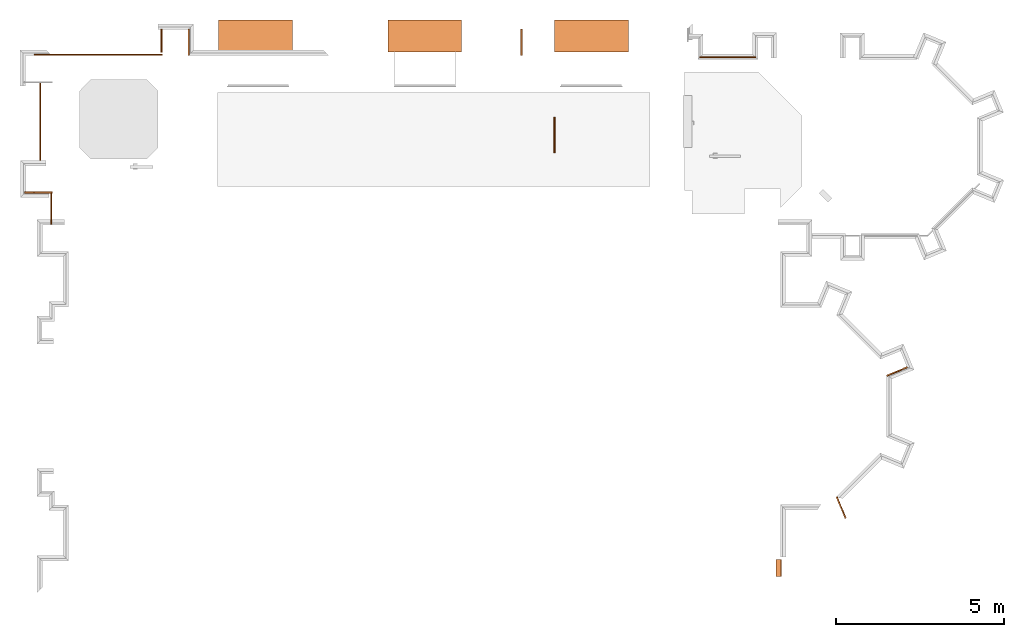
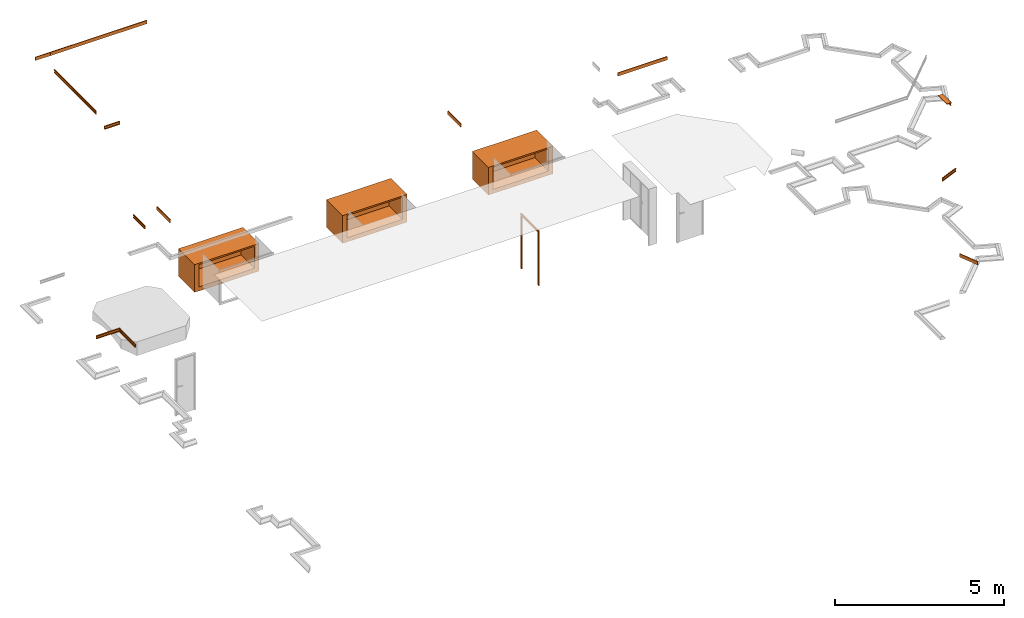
# One storey, part 3 of 9: 17 proxies.
"""IFC2X3 building model written with IfcOpenShell, lengths in metres."""

from ifc_helpers import new_model, entity, si_unit, converted_unit, derived_unit, direction, frame, frame_2d, origin, origin_2d_with_axis, place, context, subcontext, project, spatial, polyline, circle_curve, parameter, trimmed, segment, composite_curve, rectangle, outline, extrude, source, transform, mapped, material, material_list, type_object, type_shapes, element, save


model = new_model("IFC2X3")

# Units and contexts
model_context = context("Model", 3, precision=1e-05, world=origin(), true_north=direction((6.12303176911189e-17, 1.0)))
plan_context = context("Plan", 3, precision=1e-05, world=origin(), true_north=direction((6.12303176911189e-17, 1.0)))
body_context = subcontext(model_context, "Body", "Model", "MODEL_VIEW")
ifc_project = project(units=[si_unit("LENGTHUNIT", "METRE"), si_unit("AREAUNIT", "SQUARE_METRE"), si_unit("VOLUMEUNIT", "CUBIC_METRE"), converted_unit("PLANEANGLEUNIT", "DEGREE", entity("IfcRatioMeasure", 0.0174532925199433), si_unit("PLANEANGLEUNIT", "RADIAN"), dimensions=[0, 0, 0, 0, 0, 0, 0]), si_unit("MASSUNIT", "GRAM", prefix="KILO"), derived_unit("MASSDENSITYUNIT", [(si_unit("MASSUNIT", "GRAM", prefix="KILO"), 1), (si_unit("LENGTHUNIT", "METRE"), -3)]), derived_unit("MOMENTOFINERTIAUNIT", [(si_unit("LENGTHUNIT", "METRE"), 4)]), si_unit("TIMEUNIT", "SECOND"), si_unit("FREQUENCYUNIT", "HERTZ"), si_unit("THERMODYNAMICTEMPERATUREUNIT", "DEGREE_CELSIUS"), derived_unit("THERMALTRANSMITTANCEUNIT", [(si_unit("MASSUNIT", "GRAM", prefix="KILO"), 1), (si_unit("THERMODYNAMICTEMPERATUREUNIT", "KELVIN"), -1), (si_unit("TIMEUNIT", "SECOND"), -3)]), derived_unit("VOLUMETRICFLOWRATEUNIT", [(si_unit("LENGTHUNIT", "METRE"), 3), (si_unit("TIMEUNIT", "SECOND"), -1)]), derived_unit("MASSFLOWRATEUNIT", [(si_unit("MASSUNIT", "GRAM", prefix="KILO"), 1), (si_unit("TIMEUNIT", "SECOND"), -1)]), derived_unit("ROTATIONALFREQUENCYUNIT", [(si_unit("TIMEUNIT", "SECOND"), -1)]), si_unit("ELECTRICCURRENTUNIT", "AMPERE"), si_unit("ELECTRICVOLTAGEUNIT", "VOLT"), si_unit("POWERUNIT", "WATT"), si_unit("FORCEUNIT", "NEWTON", prefix="KILO"), si_unit("ILLUMINANCEUNIT", "LUX"), si_unit("LUMINOUSFLUXUNIT", "LUMEN"), si_unit("LUMINOUSINTENSITYUNIT", "CANDELA"), derived_unit("USERDEFINED", [(si_unit("MASSUNIT", "GRAM", prefix="KILO"), -1), (si_unit("LENGTHUNIT", "METRE"), -2), (si_unit("TIMEUNIT", "SECOND"), 3), (si_unit("LUMINOUSFLUXUNIT", "LUMEN"), 1)]), derived_unit("SOUNDPOWERUNIT", [(si_unit("MASSUNIT", "GRAM", prefix="KILO"), 1), (si_unit("LENGTHUNIT", "METRE"), 2), (si_unit("TIMEUNIT", "SECOND"), -3)]), derived_unit("SOUNDPRESSUREUNIT", [(si_unit("MASSUNIT", "GRAM", prefix="KILO"), 1), (si_unit("LENGTHUNIT", "METRE"), -1), (si_unit("TIMEUNIT", "SECOND"), -2)]), derived_unit("LINEARVELOCITYUNIT", [(si_unit("LENGTHUNIT", "METRE"), 1), (si_unit("TIMEUNIT", "SECOND"), -1)]), si_unit("PRESSUREUNIT", "PASCAL"), derived_unit("USERDEFINED", [(si_unit("LENGTHUNIT", "METRE"), -2), (si_unit("MASSUNIT", "GRAM", prefix="KILO"), 1), (si_unit("TIMEUNIT", "SECOND"), -2)]), derived_unit("LINEARFORCEUNIT", [(si_unit("MASSUNIT", "GRAM", prefix="KILO"), 1), (si_unit("LENGTHUNIT", "METRE"), 1), (si_unit("TIMEUNIT", "SECOND"), -2), (si_unit("LENGTHUNIT", "METRE"), -1)]), derived_unit("PLANARFORCEUNIT", [(si_unit("MASSUNIT", "GRAM", prefix="KILO"), 1), (si_unit("LENGTHUNIT", "METRE"), 1), (si_unit("TIMEUNIT", "SECOND"), -2), (si_unit("LENGTHUNIT", "METRE"), -2)])], contexts=[model_context, plan_context])

# Site, building, storey
site_placement = place(None, frame((-11.0823275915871, 23.8300534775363, 0.0)))
site = spatial("IfcSite", under=ifc_project, at=site_placement, Name="Default", CompositionType="ELEMENT")
building_placement = place(site_placement, origin())
building = spatial("IfcBuilding", under=site, at=building_placement, Name="Englische Kirche", CompositionType="ELEMENT")
storey_placement = place(building_placement, frame((0.0, 0.0, -3.07499999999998)))
storey = spatial("IfcBuildingStorey", under=building, at=storey_placement, Name="Ebene -1 Basement Phase 6", CompositionType="ELEMENT", Elevation=-3.07499999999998)

# Proxies
building_element_proxy_type_1 = type_object("IfcBuildingElementProxyType", Name="Profilierte Wand:moulding1-Dado", PredefinedType="NOTDEFINED")
proxy_1_placement = place(storey_placement, origin())
element("IfcBuildingElementProxy", 1, at=proxy_1_placement, inside=storey, type_object=building_element_proxy_type_1, Name="Profilierte Wand:moulding1-Dado", ObjectType="Profilierte Wand:moulding1-Dado", context=body_context, shape_type="SweptSolid", body=[
    extrude(outline(composite_curve([segment(polyline([(-0.0162949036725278, -0.0657101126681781), (0.00370509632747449, -0.0657101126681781)]), True, "CONTINUOUS"), segment(trimmed(circle_curve(frame_2d((0.00370509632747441, -0.0507101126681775), x_axis=(1.0, 0.0)), 0.015), [parameter(270.0)], [parameter(93.5763343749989)], True, "PARAMETER"), True, "CONTINUOUS"), segment(polyline([(0.00276942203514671, -0.0357393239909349), (-0.00129490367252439, 0.0292898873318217)]), True, "CONTINUOUS"), segment(polyline([(-0.00129490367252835, 0.0292898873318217), (0.0137050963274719, 0.0292898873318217)]), True, "CONTINUOUS"), segment(polyline([(0.0137050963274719, 0.0292898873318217), (0.0137050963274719, 0.0542898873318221)]), True, "CONTINUOUS"), segment(polyline([(0.0137050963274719, 0.0542898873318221), (-0.0162949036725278, 0.0542898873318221)]), True, "CONTINUOUS"), segment(polyline([(-0.0162949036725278, 0.0542898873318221), (-0.0162949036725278, -0.0657101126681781)]), True, "CONTINUOUS")], self_intersect=False)), frame((22.6795905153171, 1.51514831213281, 4.3792898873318), z_axis=(-0.382683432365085, 0.923879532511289, 0.0), x_axis=(0.923879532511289, 0.382683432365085, 0.0)), (0.0, 0.0, 1.0), 0.679766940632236),
])
building_element_proxy_type_2 = type_object("IfcBuildingElementProxyType", Name="Profilierte Wand:moulding1-Dado", PredefinedType="NOTDEFINED")
proxy_2_placement = place(storey_placement, origin())
element("IfcBuildingElementProxy", 2, at=proxy_2_placement, inside=storey, type_object=building_element_proxy_type_2, Name="Profilierte Wand:moulding1-Dado", ObjectType="Profilierte Wand:moulding1-Dado", context=body_context, shape_type="SweptSolid", body=[
    extrude(outline(composite_curve([segment(polyline([(-0.0162949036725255, -0.0657101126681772), (0.00370509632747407, -0.0657101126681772)]), True, "CONTINUOUS"), segment(trimmed(circle_curve(frame_2d((0.00370509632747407, -0.0507101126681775), x_axis=(1.0, 0.0)), 0.015), [parameter(270.0)], [parameter(93.5763343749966)], True, "PARAMETER"), True, "CONTINUOUS"), segment(polyline([(0.00276942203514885, -0.0357393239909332), (-0.00129490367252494, 0.0292898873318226)]), True, "CONTINUOUS"), segment(polyline([(-0.00129490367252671, 0.0292898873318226), (0.0137050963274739, 0.0292898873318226)]), True, "CONTINUOUS"), segment(polyline([(0.0137050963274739, 0.0292898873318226), (0.0137050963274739, 0.0542898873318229)]), True, "CONTINUOUS"), segment(polyline([(0.0137050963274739, 0.0542898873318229), (-0.0162949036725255, 0.0542898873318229)]), True, "CONTINUOUS"), segment(polyline([(-0.0162949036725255, 0.0542898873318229), (-0.0162949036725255, -0.0657101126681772)]), True, "CONTINUOUS")], self_intersect=False)), frame((-1.79761080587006, 11.2274240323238, 4.3792898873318), z_axis=(1.0, 0.0, 0.0), x_axis=(0.0, -1.0, 0.0)), (0.0, 0.0, 1.0), 0.820746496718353),
])
building_element_proxy_type_3 = type_object("IfcBuildingElementProxyType", Name="Profilierte Wand:moulding1-Dado brick Stage 2", PredefinedType="NOTDEFINED")
proxy_3_placement = place(storey_placement, origin())
element("IfcBuildingElementProxy", 3, at=proxy_3_placement, inside=storey, type_object=building_element_proxy_type_3, Name="Profilierte Wand:moulding1-Dado brick Stage 2", ObjectType="Profilierte Wand:moulding1-Dado brick Stage 2", context=body_context, shape_type="SweptSolid", body=[
    extrude(outline(composite_curve([segment(polyline([(-0.0657101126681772, -0.0162949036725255), (0.0542898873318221, -0.0162949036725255)]), True, "CONTINUOUS"), segment(polyline([(0.0542898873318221, -0.0162949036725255), (0.0542898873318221, 0.0137050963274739)]), True, "CONTINUOUS"), segment(polyline([(0.0542898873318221, 0.0137050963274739), (0.0292898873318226, 0.0137050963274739)]), True, "CONTINUOUS"), segment(polyline([(0.0292898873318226, 0.0137050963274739), (0.0292898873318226, -0.00129490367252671)]), True, "CONTINUOUS"), segment(polyline([(0.0292898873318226, -0.00129490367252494), (-0.035739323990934, 0.00276942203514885)]), True, "CONTINUOUS"), segment(trimmed(circle_curve(frame_2d((-0.0507101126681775, 0.00370509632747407), x_axis=(0.0, 1.0)), 0.015), [parameter(266.423665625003)], [parameter(90.0000000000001)], True, "PARAMETER"), True, "CONTINUOUS"), segment(polyline([(-0.0657101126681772, 0.00370509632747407), (-0.0657101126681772, -0.0162949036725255)]), True, "CONTINUOUS")], self_intersect=False)), frame((18.3254573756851, 15.2610138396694, 4.37928988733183), z_axis=(1.0, 0.0, 0.0), x_axis=(0.0, 0.0, -1.0)), (0.0, 0.0, 1.0), 1.68025000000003),
])
building_element_proxy_type_4 = type_object("IfcBuildingElementProxyType", Name="Profilierte Wand:moulding1-Dado", PredefinedType="NOTDEFINED")
proxy_4_placement = place(storey_placement, origin())
element("IfcBuildingElementProxy", 4, at=proxy_4_placement, inside=storey, type_object=building_element_proxy_type_4, Name="Profilierte Wand:moulding1-Dado", ObjectType="Profilierte Wand:moulding1-Dado", context=body_context, shape_type="SweptSolid", body=[
    extrude(outline(composite_curve([segment(polyline([(-0.0657101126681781, -0.0162949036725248), (0.0542898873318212, -0.0162949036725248)]), True, "CONTINUOUS"), segment(polyline([(0.0542898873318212, -0.0162949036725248), (0.0542898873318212, 0.0137050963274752)]), True, "CONTINUOUS"), segment(polyline([(0.0542898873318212, 0.0137050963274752), (0.0292898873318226, 0.0137050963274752)]), True, "CONTINUOUS"), segment(polyline([(0.0292898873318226, 0.0137050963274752), (0.0292898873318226, -0.00129490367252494)]), True, "CONTINUOUS"), segment(polyline([(0.0292898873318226, -0.00129490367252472), (-0.0357393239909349, 0.00276942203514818)]), True, "CONTINUOUS"), segment(trimmed(circle_curve(frame_2d((-0.0507101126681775, 0.0037050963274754), x_axis=(0.0, 1.0)), 0.015), [parameter(266.423665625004)], [parameter(90.0000000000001)], True, "PARAMETER"), True, "CONTINUOUS"), segment(polyline([(-0.0657101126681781, 0.0037050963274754), (-0.0657101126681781, -0.0162949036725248)]), True, "CONTINUOUS")], self_intersect=False)), frame((-1.33575888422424, 12.0237189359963, 11.8434532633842), z_axis=(0.0, 1.0, 0.0), x_axis=(0.0, 0.0, -1.0)), (0.0, 0.0, 1.0), 2.47850000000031),
])
building_element_proxy_type_5 = type_object("IfcBuildingElementProxyType", Name="Profilierte Wand:moulding1-Dado", PredefinedType="NOTDEFINED")
proxy_5_placement = place(storey_placement, origin())
element("IfcBuildingElementProxy", 5, at=proxy_5_placement, inside=storey, type_object=building_element_proxy_type_5, Name="Profilierte Wand:moulding1-Dado", ObjectType="Profilierte Wand:moulding1-Dado", context=body_context, shape_type="SweptSolid", body=[
    extrude(outline(composite_curve([segment(polyline([(-0.0657101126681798, -0.0162949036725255), (0.0542898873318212, -0.0162949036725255)]), True, "CONTINUOUS"), segment(polyline([(0.0542898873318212, -0.0162949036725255), (0.0542898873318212, 0.0137050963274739)]), True, "CONTINUOUS"), segment(polyline([(0.0542898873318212, 0.0137050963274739), (0.0292898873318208, 0.0137050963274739)]), True, "CONTINUOUS"), segment(polyline([(0.0292898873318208, 0.0137050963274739), (0.0292898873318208, -0.00129490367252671)]), True, "CONTINUOUS"), segment(polyline([(0.0292898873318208, -0.00129490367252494), (-0.0357393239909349, 0.00276942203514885)]), True, "CONTINUOUS"), segment(trimmed(circle_curve(frame_2d((-0.0507101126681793, 0.00370509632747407), x_axis=(0.0, 1.0)), 0.015), [parameter(266.423665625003)], [parameter(90.0000000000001)], True, "PARAMETER"), True, "CONTINUOUS"), segment(polyline([(-0.0657101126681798, 0.00370509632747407), (-0.0657101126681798, -0.0162949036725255)]), True, "CONTINUOUS")], self_intersect=False)), frame((-0.989542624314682, 15.3300138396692, 11.8432898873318), z_axis=(1.0, 0.0, 0.0), x_axis=(0.0, 0.0, -1.0)), (0.0, 0.0, 1.0), 3.2849999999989),
])
building_element_proxy_type_6 = type_object("IfcBuildingElementProxyType", Name="Profilierte Wand:moulding1-Dado", PredefinedType="NOTDEFINED")
proxy_6_placement = place(storey_placement, origin())
element("IfcBuildingElementProxy", 6, at=proxy_6_placement, inside=storey, type_object=building_element_proxy_type_6, Name="Profilierte Wand:moulding1-Dado", ObjectType="Profilierte Wand:moulding1-Dado", context=body_context, shape_type="SweptSolid", body=[
    extrude(outline(composite_curve([segment(polyline([(-0.0162949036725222, -0.0657101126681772), (0.00370509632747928, -0.0657101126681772)]), True, "CONTINUOUS"), segment(trimmed(circle_curve(frame_2d((0.00370509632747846, -0.0507101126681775), x_axis=(1.0, 0.0)), 0.015), [parameter(270.000000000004)], [parameter(93.5763343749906)], True, "PARAMETER"), True, "CONTINUOUS"), segment(polyline([(0.00276942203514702, -0.035739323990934), (-0.00129490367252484, 0.0292898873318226)]), True, "CONTINUOUS"), segment(polyline([(-0.00129490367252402, 0.0292898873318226), (0.0137050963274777, 0.0292898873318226)]), True, "CONTINUOUS"), segment(polyline([(0.0137050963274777, 0.0292898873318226), (0.0137050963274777, 0.0542898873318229)]), True, "CONTINUOUS"), segment(polyline([(0.0137050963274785, 0.0542898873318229), (-0.0162949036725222, 0.0542898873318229)]), True, "CONTINUOUS"), segment(polyline([(-0.0162949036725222, 0.0542898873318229), (-0.0162949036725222, -0.0657101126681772)]), True, "CONTINUOUS")], self_intersect=False)), frame((23.9162963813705, 5.76375721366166, 4.3792898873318), z_axis=(0.923879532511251, 0.382683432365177, 0.0), x_axis=(0.382683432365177, -0.923879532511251, 0.0)), (0.0, 0.0, 1.0), 0.652471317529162),
])
building_element_proxy_type_7 = type_object("IfcBuildingElementProxyType", Name="Profilierte Wand:moulding1-Dado 2", PredefinedType="NOTDEFINED")
proxy_7_placement = place(storey_placement, origin())
element("IfcBuildingElementProxy", 7, at=proxy_7_placement, inside=storey, type_object=building_element_proxy_type_7, Name="Profilierte Wand:moulding1-Dado 2", ObjectType="Profilierte Wand:moulding1-Dado 2", context=body_context, shape_type="SweptSolid", body=[
    extrude(outline(composite_curve([segment(trimmed(circle_curve(frame_2d((0.0377873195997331, -0.0481981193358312), x_axis=(1.0, 0.0)), 0.0150000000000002), [parameter(270.0)], [parameter(92.9980492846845)], True, "PARAMETER"), True, "CONTINUOUS"), segment(polyline([(0.0370027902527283, -0.0332186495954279), (0.0273985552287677, 0.0351190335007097)]), True, "CONTINUOUS"), segment(polyline([(0.0273985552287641, 0.0351190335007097), (0.0373985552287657, 0.0351190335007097)]), True, "CONTINUOUS"), segment(polyline([(0.0373985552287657, 0.0351190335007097), (0.0373985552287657, 0.0567539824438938)]), True, "CONTINUOUS"), segment(polyline([(0.0373985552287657, 0.0567539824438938), (0.0177086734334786, 0.0567539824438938)]), True, "CONTINUOUS"), segment(polyline([(0.0177086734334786, 0.0567539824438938), (0.0138263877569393, 0.042265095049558)]), True, "CONTINUOUS"), segment(polyline([(0.0138263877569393, 0.0422650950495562), (0.0138263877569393, -0.0331981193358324)]), True, "CONTINUOUS"), segment(polyline([(0.0138263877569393, -0.0331981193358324), (-0.111173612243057, -0.0331981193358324)]), True, "CONTINUOUS"), segment(polyline([(-0.111173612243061, -0.0331981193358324), (-0.111173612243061, -0.06319811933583)]), True, "CONTINUOUS"), segment(polyline([(-0.111173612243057, -0.0631981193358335), (0.0377873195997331, -0.0631981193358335)]), True, "CONTINUOUS")], self_intersect=False)), frame((20.7206976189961, -0.234570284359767, 11.8468301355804), z_axis=(0.0, 1.0, 0.0), x_axis=(1.0, 0.0, 0.0)), (0.0, 0.0, 1.0), 0.518500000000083),
])
building_element_proxy_type_8 = type_object("IfcBuildingElementProxyType", Name="Profilierte Wand:moulding1-Dado", PredefinedType="NOTDEFINED")
proxy_8_placement = place(storey_placement, origin())
element("IfcBuildingElementProxy", 8, at=proxy_8_placement, inside=storey, type_object=building_element_proxy_type_8, Name="Profilierte Wand:moulding1-Dado", ObjectType="Profilierte Wand:moulding1-Dado", context=body_context, shape_type="SweptSolid", body=[
    extrude(outline(composite_curve([segment(polyline([(-0.0657101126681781, -0.0162949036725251), (0.0542898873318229, -0.0162949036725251)]), True, "CONTINUOUS"), segment(polyline([(0.0542898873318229, -0.0162949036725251), (0.0542898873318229, 0.0137050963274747)]), True, "CONTINUOUS"), segment(polyline([(0.0542898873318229, 0.0137050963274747), (0.0292898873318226, 0.0137050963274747)]), True, "CONTINUOUS"), segment(polyline([(0.0292898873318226, 0.0137050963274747), (0.0292898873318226, -0.00129490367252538)]), True, "CONTINUOUS"), segment(polyline([(0.0292898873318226, -0.00129490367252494), (-0.035739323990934, 0.00276942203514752)]), True, "CONTINUOUS"), segment(trimmed(circle_curve(frame_2d((-0.0507101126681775, 0.00370509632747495), x_axis=(0.0, 1.0)), 0.015), [parameter(266.423665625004)], [parameter(90.0000000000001)], True, "PARAMETER"), True, "CONTINUOUS"), segment(polyline([(-0.0657101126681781, 0.00370509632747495), (-0.0657101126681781, -0.0162949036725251)]), True, "CONTINUOUS")], self_intersect=False)), frame((2.2791624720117, 15.4104462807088, 4.3792898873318), z_axis=(0.0, 1.0, 0.0), x_axis=(0.0, 0.0, -1.0)), (0.0, 0.0, 1.0), 0.683272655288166),
])
building_element_proxy_type_9 = type_object("IfcBuildingElementProxyType", Name="Profilierte Wand:moulding1-Dado", PredefinedType="NOTDEFINED")
proxy_9_placement = place(storey_placement, origin())
element("IfcBuildingElementProxy", 9, at=proxy_9_placement, inside=storey, type_object=building_element_proxy_type_9, Name="Profilierte Wand:moulding1-Dado", ObjectType="Profilierte Wand:moulding1-Dado", context=body_context, shape_type="SweptSolid", body=[
    extrude(outline(composite_curve([segment(polyline([(-0.0162949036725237, -0.0657101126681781), (0.00370509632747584, -0.0657101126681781)]), True, "CONTINUOUS"), segment(trimmed(circle_curve(frame_2d((0.00370509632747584, -0.0507101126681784), x_axis=(1.0, 0.0)), 0.015), [parameter(270.0)], [parameter(93.5763343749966)], True, "PARAMETER"), True, "CONTINUOUS"), segment(polyline([(0.00276942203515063, -0.035739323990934), (-0.00129490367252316, 0.0292898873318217)]), True, "CONTINUOUS"), segment(polyline([(-0.00129490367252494, 0.0292898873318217), (0.0137050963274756, 0.0292898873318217)]), True, "CONTINUOUS"), segment(polyline([(0.0137050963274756, 0.0292898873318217), (0.0137050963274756, 0.0542898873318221)]), True, "CONTINUOUS"), segment(polyline([(0.0137050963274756, 0.0542898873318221), (-0.0162949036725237, 0.0542898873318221)]), True, "CONTINUOUS"), segment(polyline([(-0.0162949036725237, 0.0542898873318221), (-0.0162949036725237, -0.0657101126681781)]), True, "CONTINUOUS")], self_intersect=False)), frame((13.0167522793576, 15.313718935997, 4.36055193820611), z_axis=(0.0, 1.0, 0.0), x_axis=(1.0, 0.0, 0.0)), (0.0, 0.0, 1.0), 0.779999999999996),
])
ifc_material_1 = material(Name="<Unnamed>")
ifc_material_list_1 = material_list([ifc_material_1, ifc_material_1, ifc_material_1])
ifc_material_list_2 = material_list([ifc_material_1, ifc_material_1, ifc_material_1])
building_element_proxy_type_10 = type_object("IfcBuildingElementProxyType", Name="LinedSquareOpening:945x1980", PredefinedType="NOTDEFINED", material=ifc_material_list_2)
shared_shape_1 = source(origin(), body_context, "Body", "SweptSolid", [
    extrude(rectangle(XDim=1.06500000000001, YDim=0.0400000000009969, at=origin_2d_with_axis()), frame((0.124999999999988, 0.0, 1.90000000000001), z_axis=(0.0, 0.0, 1.0), x_axis=(-1.0, 0.0, 0.0)), (0.0, 0.0, 1.0), 0.0800000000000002),
    extrude(rectangle(XDim=0.0600000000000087, YDim=0.0400000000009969, at=frame_2d((-6.76542155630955e-17, 0.0), x_axis=(1.0, 0.0))), frame((0.627499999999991, 0.0, 0.0), z_axis=(0.0, 0.0, 1.0), x_axis=(-1.0, 0.0, 0.0)), (0.0, 0.0, 1.0), 1.9),
    extrude(rectangle(XDim=0.0600000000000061, YDim=0.0400000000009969, at=origin_2d_with_axis()), frame((-0.37750000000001, 0.0, 0.0), z_axis=(0.0, 0.0, 1.0), x_axis=(-1.0, 0.0, 0.0)), (0.0, 0.0, 1.0), 1.9),
])
type_shapes(building_element_proxy_type_10, [shared_shape_1])
proxy_10_placement = place(storey_placement, frame((13.9979573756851, 13.0662189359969, 0.0), z_axis=(0.0, 0.0, 1.0), x_axis=(0.0, -1.0, 0.0)))
element("IfcBuildingElementProxy", 10, at=proxy_10_placement, inside=storey, type_object=building_element_proxy_type_10, material=ifc_material_list_1, Name="LinedSquareOpening:945x1980", ObjectType="LinedSquareOpening:945x1980", context=body_context, shape_type="MappedRepresentation", body=[
    mapped(shared_shape_1, transform((0.0, 0.0, 0.0), scale=1.0)),
])
building_element_proxy_type_11 = type_object("IfcBuildingElementProxyType", Name="Profilierte Wand:moulding1-Dado", PredefinedType="NOTDEFINED")
proxy_11_placement = place(storey_placement, origin())
element("IfcBuildingElementProxy", 11, at=proxy_11_placement, inside=storey, type_object=building_element_proxy_type_11, Name="Profilierte Wand:moulding1-Dado", ObjectType="Profilierte Wand:moulding1-Dado", context=body_context, shape_type="SweptSolid", body=[
    extrude(outline(composite_curve([segment(polyline([(-0.0162949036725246, -0.0657101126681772), (0.00370509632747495, -0.0657101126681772)]), True, "CONTINUOUS"), segment(trimmed(circle_curve(frame_2d((0.00370509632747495, -0.0507101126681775), x_axis=(1.0, 0.0)), 0.015), [parameter(270.0)], [parameter(93.5763343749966)], True, "PARAMETER"), True, "CONTINUOUS"), segment(polyline([(0.00276942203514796, -0.035739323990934), (-0.00129490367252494, 0.0292898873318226)]), True, "CONTINUOUS"), segment(polyline([(-0.00129490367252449, 0.0292898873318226), (0.0137050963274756, 0.0292898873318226)]), True, "CONTINUOUS"), segment(polyline([(0.0137050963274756, 0.0292898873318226), (0.0137050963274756, 0.0542898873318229)]), True, "CONTINUOUS"), segment(polyline([(0.0137050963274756, 0.0542898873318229), (-0.0162949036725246, 0.0542898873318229)]), True, "CONTINUOUS"), segment(polyline([(-0.0162949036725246, 0.0542898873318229), (-0.0162949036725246, -0.0657101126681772)]), True, "CONTINUOUS")], self_intersect=False)), frame((3.09175227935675, 15.313718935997, 4.3792898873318), z_axis=(0.0, 1.0, 0.0), x_axis=(1.0, 0.0, 0.0)), (0.0, 0.0, 1.0), 0.779999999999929),
])
building_element_proxy_type_12 = type_object("IfcBuildingElementProxyType", Name="Profilierte Wand:moulding1-Dado", PredefinedType="NOTDEFINED")
proxy_12_placement = place(storey_placement, origin())
element("IfcBuildingElementProxy", 12, at=proxy_12_placement, inside=storey, type_object=building_element_proxy_type_12, Name="Profilierte Wand:moulding1-Dado", ObjectType="Profilierte Wand:moulding1-Dado", context=body_context, shape_type="SweptSolid", body=[
    extrude(outline(composite_curve([segment(polyline([(-0.0657101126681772, -0.0162949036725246), (0.0542898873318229, -0.0162949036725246)]), True, "CONTINUOUS"), segment(polyline([(0.0542898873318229, -0.0162949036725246), (0.0542898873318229, 0.0137050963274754)]), True, "CONTINUOUS"), segment(polyline([(0.0542898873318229, 0.0137050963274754), (0.0292898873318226, 0.0137050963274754)]), True, "CONTINUOUS"), segment(polyline([(0.0292898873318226, 0.0137050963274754), (0.0292898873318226, -0.00129490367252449)]), True, "CONTINUOUS"), segment(polyline([(0.0292898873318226, -0.00129490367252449), (-0.035739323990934, 0.00276942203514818)]), True, "CONTINUOUS"), segment(trimmed(circle_curve(frame_2d((-0.0507101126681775, 0.0037050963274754), x_axis=(0.0, 1.0)), 0.015), [parameter(266.423665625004)], [parameter(89.9999999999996)], True, "PARAMETER"), True, "CONTINUOUS"), segment(polyline([(-0.0657101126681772, 0.0037050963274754), (-0.0657101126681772, -0.0162949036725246)]), True, "CONTINUOUS")], self_intersect=False)), frame((-1.00583752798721, 10.278729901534, 4.3792898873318), z_axis=(0.0, 1.0, 0.0), x_axis=(0.0, 0.0, -1.0)), (0.0, 0.0, 1.0), 0.964989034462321),
])
building_element_proxy_type_13 = type_object("IfcBuildingElementProxyType", Name="Profilierte Wand:moulding1-Dado", PredefinedType="NOTDEFINED")
proxy_13_placement = place(storey_placement, origin())
element("IfcBuildingElementProxy", 13, at=proxy_13_placement, inside=storey, type_object=building_element_proxy_type_13, Name="Profilierte Wand:moulding1-Dado", ObjectType="Profilierte Wand:moulding1-Dado", context=body_context, shape_type="SweptSolid", body=[
    extrude(outline(composite_curve([segment(polyline([(-0.0657101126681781, -0.016294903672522), (0.0542898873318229, -0.016294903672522)]), True, "CONTINUOUS"), segment(polyline([(0.0542898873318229, -0.016294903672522), (0.0542898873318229, 0.0137050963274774)]), True, "CONTINUOUS"), segment(polyline([(0.0542898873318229, 0.0137050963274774), (0.0292898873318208, 0.0137050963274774)]), True, "CONTINUOUS"), segment(polyline([(0.0292898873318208, 0.0137050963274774), (0.0292898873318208, -0.00129490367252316)]), True, "CONTINUOUS"), segment(polyline([(0.0292898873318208, -0.00129490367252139), (-0.0357393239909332, 0.0027694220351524)]), True, "CONTINUOUS"), segment(trimmed(circle_curve(frame_2d((-0.0507101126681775, 0.00370509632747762), x_axis=(0.0, 1.0)), 0.015), [parameter(266.423665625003)], [parameter(90.0000000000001)], True, "PARAMETER"), True, "CONTINUOUS"), segment(polyline([(-0.0657101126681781, 0.00370509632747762), (-0.0657101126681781, -0.016294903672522)]), True, "CONTINUOUS")], self_intersect=False)), frame((-1.51228671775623, 15.3300138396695, 11.8432898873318), z_axis=(1.0, 0.0, 0.0), x_axis=(0.0, 0.0, -1.0)), (0.0, 0.0, 1.0), 0.522744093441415),
])
building_element_proxy_type_14 = type_object("IfcBuildingElementProxyType", Name="Profilierte Wand:moulding1-Dado", PredefinedType="NOTDEFINED")
proxy_14_placement = place(storey_placement, origin())
element("IfcBuildingElementProxy", 14, at=proxy_14_placement, inside=storey, type_object=building_element_proxy_type_14, Name="Profilierte Wand:moulding1-Dado", ObjectType="Profilierte Wand:moulding1-Dado", context=body_context, shape_type="SweptSolid", body=[
    extrude(outline(composite_curve([segment(polyline([(-0.0162949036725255, -0.0657101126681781), (0.00370509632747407, -0.0657101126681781)]), True, "CONTINUOUS"), segment(trimmed(circle_curve(frame_2d((0.00370509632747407, -0.0507101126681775), x_axis=(1.0, 0.0)), 0.015), [parameter(270.0)], [parameter(93.5763343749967)], True, "PARAMETER"), True, "CONTINUOUS"), segment(polyline([(0.00276942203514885, -0.0357393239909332), (-0.00129490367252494, 0.0292898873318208)]), True, "CONTINUOUS"), segment(polyline([(-0.00129490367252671, 0.0292898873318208), (0.0137050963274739, 0.0292898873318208)]), True, "CONTINUOUS"), segment(polyline([(0.0137050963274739, 0.0292898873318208), (0.0137050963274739, 0.0542898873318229)]), True, "CONTINUOUS"), segment(polyline([(0.0137050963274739, 0.0542898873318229), (-0.0162949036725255, 0.0542898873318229)]), True, "CONTINUOUS"), segment(polyline([(-0.0162949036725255, 0.0542898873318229), (-0.0162949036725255, -0.0657101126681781)]), True, "CONTINUOUS")], self_intersect=False)), frame((-1.51228671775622, 11.2274240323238, 11.8432898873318), z_axis=(1.0, 0.0, 0.0), x_axis=(0.0, -1.0, 0.0)), (0.0, 0.0, 1.0), 0.522744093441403),
])
ifc_material_2 = material(Name="Ortbeton - bewehrt")
ifc_material_list_3 = material_list([ifc_material_1, ifc_material_2, ifc_material_2, ifc_material_2, ifc_material_2])
ifc_material_list_4 = material_list([ifc_material_1, ifc_material_2, ifc_material_2, ifc_material_2, ifc_material_2])
building_element_proxy_type_15 = type_object("IfcBuildingElementProxyType", Name="BasementLightwell:BasementLightwell", PredefinedType="NOTDEFINED", material=ifc_material_list_4)
shared_shape_2 = source(origin(), body_context, "Body", "SweptSolid", [
    extrude(rectangle(XDim=1.89, YDim=0.800000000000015, at=origin_2d_with_axis()), frame((0.0, -0.0775000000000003, -0.0500000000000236), z_axis=(0.0, 0.0, 1.0), x_axis=(-1.0, 0.0, 0.0)), (0.0, 0.0, 1.0), 0.0500000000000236),
    extrude(rectangle(XDim=1.89, YDim=0.155, at=frame_2d((0.0, -3.46944695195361e-17), x_axis=(1.0, 0.0))), frame((0.0, 0.400000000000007, -0.850000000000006), z_axis=(0.0, 0.0, 1.0), x_axis=(-1.0, 0.0, 0.0)), (0.0, 0.0, 1.0), 0.849999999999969),
    extrude(rectangle(XDim=0.955000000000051, YDim=0.155000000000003, at=origin_2d_with_axis()), frame((1.02249999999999, 0.0, -0.850000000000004), z_axis=(0.0, 0.0, 1.0), x_axis=(0.0, -1.0, 0.0)), (0.0, 0.0, 1.0), 0.849999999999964),
    extrude(rectangle(XDim=0.155, YDim=0.955000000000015, at=frame_2d((0.0, 2.77555756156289e-17), x_axis=(1.0, 0.0))), frame((-1.0225, 0.0, -0.850000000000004), z_axis=(0.0, 0.0, 1.0), x_axis=(-1.0, 0.0, 0.0)), (0.0, 0.0, 1.0), 0.849999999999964),
    extrude(rectangle(XDim=2.2, YDim=0.955000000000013, at=origin_2d_with_axis()), frame((0.0, 0.0, -1.0), z_axis=(0.0, 0.0, 1.0), x_axis=(-1.0, 0.0, 0.0)), (0.0, 0.0, 1.0), 0.149999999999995),
])
type_shapes(building_element_proxy_type_15, [shared_shape_2])
proxy_15_placement = place(storey_placement, frame((10.1304573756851, 15.8937189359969, 2.44500000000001)))
element("IfcBuildingElementProxy", 15, at=proxy_15_placement, inside=storey, type_object=building_element_proxy_type_15, material=ifc_material_list_3, Name="BasementLightwell:BasementLightwell", ObjectType="BasementLightwell:BasementLightwell", context=body_context, shape_type="MappedRepresentation", body=[
    mapped(shared_shape_2, transform((0.0, 0.0, 0.0), scale=1.0)),
])
ifc_material_list_5 = material_list([ifc_material_1, ifc_material_2])
proxy_16_placement = place(storey_placement, frame((15.1034573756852, 15.8937189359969, 2.44500000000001)))
element("IfcBuildingElementProxy", 16, at=proxy_16_placement, inside=storey, type_object=building_element_proxy_type_15, material=ifc_material_list_5, Name="BasementLightwell:BasementLightwell", ObjectType="BasementLightwell:BasementLightwell", context=body_context, shape_type="MappedRepresentation", body=[
    mapped(shared_shape_2, transform((0.0, 0.0, 0.0), scale=1.0)),
])
ifc_material_list_6 = material_list([ifc_material_1, ifc_material_2])
proxy_17_placement = place(storey_placement, frame((5.08045737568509, 15.893718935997, 2.44500000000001)))
element("IfcBuildingElementProxy", 17, at=proxy_17_placement, inside=storey, type_object=building_element_proxy_type_15, material=ifc_material_list_6, Name="BasementLightwell:BasementLightwell", ObjectType="BasementLightwell:BasementLightwell", context=body_context, shape_type="MappedRepresentation", body=[
    mapped(shared_shape_2, transform((0.0, 0.0, 0.0), scale=1.0)),
])

save(model, "model.ifc")
